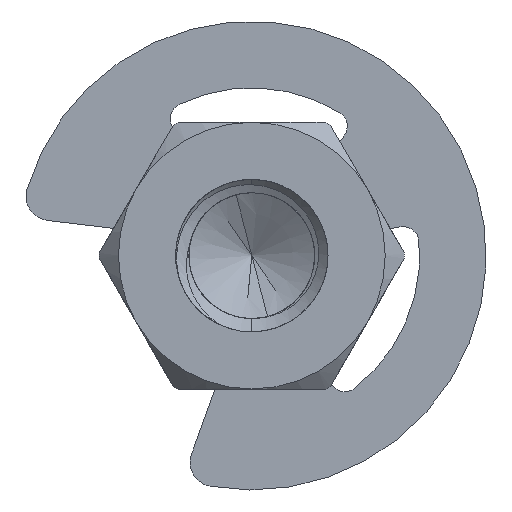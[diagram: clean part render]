
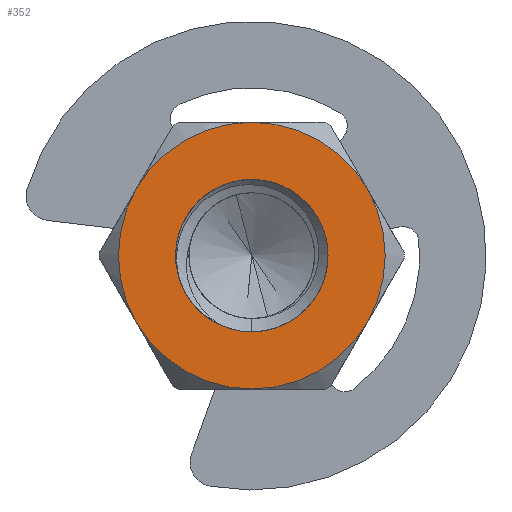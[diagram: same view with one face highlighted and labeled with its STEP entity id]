
A CAD part, front view. The second image highlights one B-rep face of the part: STEP entity #352.
In plain terms, the highlighted planar face has unit normal (0, -1, 0).
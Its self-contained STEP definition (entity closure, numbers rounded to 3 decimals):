
#53 = CARTESIAN_POINT ( 'NONE',  ( 0., 0., 0. ) ) ;
#270 = DIRECTION ( 'NONE',  ( 0., 0., 1. ) ) ;
#291 = AXIS2_PLACEMENT_3D ( 'NONE', #5058, #9079, #5140 ) ;
#352 = ADVANCED_FACE ( 'NONE', ( #12326, #5381 ), #4462, .F. ) ;
#621 = ORIENTED_EDGE ( 'NONE', *, *, #660, .T. ) ;
#660 = EDGE_CURVE ( 'NONE', #4979, #8476, #10553, .T. ) ;
#901 = ORIENTED_EDGE ( 'NONE', *, *, #10066, .F. ) ;
#932 = CIRCLE ( 'NONE', #6176, 3.5 ) ;
#955 = CARTESIAN_POINT ( 'NONE',  ( 0., 0., 0. ) ) ;
#1088 = DIRECTION ( 'NONE',  ( 0., 1., 0. ) ) ;
#1265 = CARTESIAN_POINT ( 'NONE',  ( -0.833, 0., -1.818 ) ) ;
#1304 = VERTEX_POINT ( 'NONE', #11252 ) ;
#1305 = AXIS2_PLACEMENT_3D ( 'NONE', #5844, #10006, #13097 ) ;
#1543 = DIRECTION ( 'NONE',  ( 0., 0., 1. ) ) ;
#1559 = CIRCLE ( 'NONE', #11665, 3.5 ) ;
#1582 = ORIENTED_EDGE ( 'NONE', *, *, #1968, .T. ) ;
#1814 = DIRECTION ( 'NONE',  ( 0., 0., 1. ) ) ;
#1922 = DIRECTION ( 'NONE',  ( 0., 0., 1. ) ) ;
#1968 = EDGE_CURVE ( 'NONE', #4878, #4979, #9050, .T. ) ;
#1998 = CARTESIAN_POINT ( 'NONE',  ( 0., 0., 0. ) ) ;
#2027 = CARTESIAN_POINT ( 'NONE',  ( 0., 0., 3.5 ) ) ;
#2127 = EDGE_CURVE ( 'NONE', #3912, #4878, #4862, .T. ) ;
#2201 = DIRECTION ( 'NONE',  ( 0., 1., 0. ) ) ;
#2227 = CARTESIAN_POINT ( 'NONE',  ( 3.031, 0., -1.75 ) ) ;
#2882 = VERTEX_POINT ( 'NONE', #2027 ) ;
#3031 = ORIENTED_EDGE ( 'NONE', *, *, #5178, .F. ) ;
#3352 = DIRECTION ( 'NONE',  ( 0., 0., 1. ) ) ;
#3721 = AXIS2_PLACEMENT_3D ( 'NONE', #6415, #4260, #270 ) ;
#3751 = CARTESIAN_POINT ( 'NONE',  ( 0., 0., 0. ) ) ;
#3883 = ORIENTED_EDGE ( 'NONE', *, *, #10905, .F. ) ;
#3912 = VERTEX_POINT ( 'NONE', #4326 ) ;
#4092 = EDGE_LOOP ( 'NONE', ( #621, #12165, #10777, #1582 ) ) ;
#4260 = DIRECTION ( 'NONE',  ( 0., 1., 0. ) ) ;
#4326 = CARTESIAN_POINT ( 'NONE',  ( 0., 0., 2. ) ) ;
#4393 = EDGE_LOOP ( 'NONE', ( #901, #3883, #3031, #6489, #7092, #5337 ) ) ;
#4462 = PLANE ( 'NONE',  #7095 ) ;
#4672 = AXIS2_PLACEMENT_3D ( 'NONE', #9074, #4787, #1814 ) ;
#4718 = AXIS2_PLACEMENT_3D ( 'NONE', #11739, #12603, #10521 ) ;
#4741 = VERTEX_POINT ( 'NONE', #12705 ) ;
#4787 = DIRECTION ( 'NONE',  ( 0., 1., 0. ) ) ;
#4862 = CIRCLE ( 'NONE', #3721, 2. ) ;
#4878 = VERTEX_POINT ( 'NONE', #9864 ) ;
#4979 = VERTEX_POINT ( 'NONE', #1265 ) ;
#5038 = AXIS2_PLACEMENT_3D ( 'NONE', #6198, #1088, #12411 ) ;
#5058 = CARTESIAN_POINT ( 'NONE',  ( 0., 0., 0. ) ) ;
#5140 = DIRECTION ( 'NONE',  ( 0., 0., 1. ) ) ;
#5178 = EDGE_CURVE ( 'NONE', #1304, #4741, #9919, .T. ) ;
#5337 = ORIENTED_EDGE ( 'NONE', *, *, #10660, .F. ) ;
#5381 = FACE_OUTER_BOUND ( 'NONE', #4393, .T. ) ;
#5835 = DIRECTION ( 'NONE',  ( 0., 1., 0. ) ) ;
#5844 = CARTESIAN_POINT ( 'NONE',  ( 0., 0., 0. ) ) ;
#6176 = AXIS2_PLACEMENT_3D ( 'NONE', #955, #12373, #1922 ) ;
#6198 = CARTESIAN_POINT ( 'NONE',  ( 0., 0., 0. ) ) ;
#6415 = CARTESIAN_POINT ( 'NONE',  ( 0., 0., 0. ) ) ;
#6425 = CIRCLE ( 'NONE', #4718, 3.5 ) ;
#6489 = ORIENTED_EDGE ( 'NONE', *, *, #9430, .F. ) ;
#6800 = CIRCLE ( 'NONE', #12696, 3.5 ) ;
#6980 = CIRCLE ( 'NONE', #10160, 2. ) ;
#7092 = ORIENTED_EDGE ( 'NONE', *, *, #8974, .F. ) ;
#7095 = AXIS2_PLACEMENT_3D ( 'NONE', #10595, #10500, #11729 ) ;
#7759 = VERTEX_POINT ( 'NONE', #10101 ) ;
#7959 = EDGE_CURVE ( 'NONE', #8476, #3912, #6980, .T. ) ;
#8476 = VERTEX_POINT ( 'NONE', #11100 ) ;
#8864 = CIRCLE ( 'NONE', #1305, 3.5 ) ;
#8974 = EDGE_CURVE ( 'NONE', #12122, #7759, #932, .T. ) ;
#9050 = CIRCLE ( 'NONE', #5038, 2. ) ;
#9074 = CARTESIAN_POINT ( 'NONE',  ( 0., 0., 0. ) ) ;
#9079 = DIRECTION ( 'NONE',  ( 0., 1., 0. ) ) ;
#9274 = DIRECTION ( 'NONE',  ( 0., 0., 1. ) ) ;
#9430 = EDGE_CURVE ( 'NONE', #7759, #1304, #6800, .T. ) ;
#9864 = CARTESIAN_POINT ( 'NONE',  ( 0., 0., -2. ) ) ;
#9893 = CARTESIAN_POINT ( 'NONE',  ( 3.031, 0., 1.75 ) ) ;
#9919 = CIRCLE ( 'NONE', #4672, 3.5 ) ;
#10006 = DIRECTION ( 'NONE',  ( 0., 1., 0. ) ) ;
#10066 = EDGE_CURVE ( 'NONE', #2882, #10345, #1559, .T. ) ;
#10101 = CARTESIAN_POINT ( 'NONE',  ( 0., 0., -3.5 ) ) ;
#10160 = AXIS2_PLACEMENT_3D ( 'NONE', #1998, #12447, #9274 ) ;
#10345 = VERTEX_POINT ( 'NONE', #9893 ) ;
#10500 = DIRECTION ( 'NONE',  ( 0., 1., 0. ) ) ;
#10521 = DIRECTION ( 'NONE',  ( 0., 0., 1. ) ) ;
#10553 = CIRCLE ( 'NONE', #291, 2. ) ;
#10595 = CARTESIAN_POINT ( 'NONE',  ( 0., 0., 0. ) ) ;
#10660 = EDGE_CURVE ( 'NONE', #10345, #12122, #6425, .T. ) ;
#10777 = ORIENTED_EDGE ( 'NONE', *, *, #2127, .T. ) ;
#10905 = EDGE_CURVE ( 'NONE', #4741, #2882, #8864, .T. ) ;
#11100 = CARTESIAN_POINT ( 'NONE',  ( -1.863, 0., -0.728 ) ) ;
#11252 = CARTESIAN_POINT ( 'NONE',  ( -3.031, 0., -1.75 ) ) ;
#11665 = AXIS2_PLACEMENT_3D ( 'NONE', #53, #2201, #3352 ) ;
#11729 = DIRECTION ( 'NONE',  ( 0., 0., 1. ) ) ;
#11739 = CARTESIAN_POINT ( 'NONE',  ( 0., 0., 0. ) ) ;
#12122 = VERTEX_POINT ( 'NONE', #2227 ) ;
#12165 = ORIENTED_EDGE ( 'NONE', *, *, #7959, .T. ) ;
#12326 = FACE_BOUND ( 'NONE', #4092, .T. ) ;
#12373 = DIRECTION ( 'NONE',  ( 0., 1., 0. ) ) ;
#12411 = DIRECTION ( 'NONE',  ( 0., 0., 1. ) ) ;
#12447 = DIRECTION ( 'NONE',  ( 0., 1., 0. ) ) ;
#12603 = DIRECTION ( 'NONE',  ( 0., 1., 0. ) ) ;
#12696 = AXIS2_PLACEMENT_3D ( 'NONE', #3751, #5835, #1543 ) ;
#12705 = CARTESIAN_POINT ( 'NONE',  ( -3.031, 0., 1.75 ) ) ;
#13097 = DIRECTION ( 'NONE',  ( 0., 0., 1. ) ) ;
